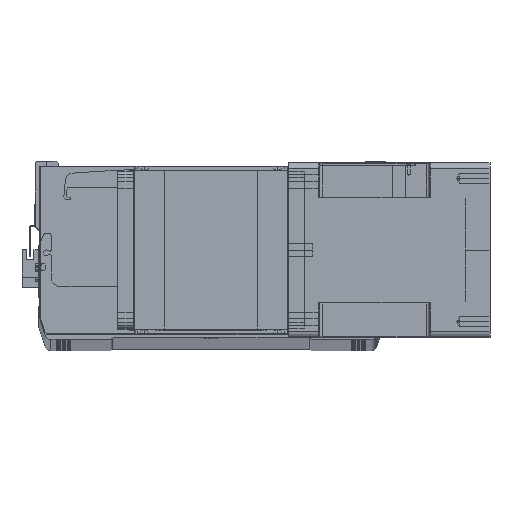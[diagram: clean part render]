
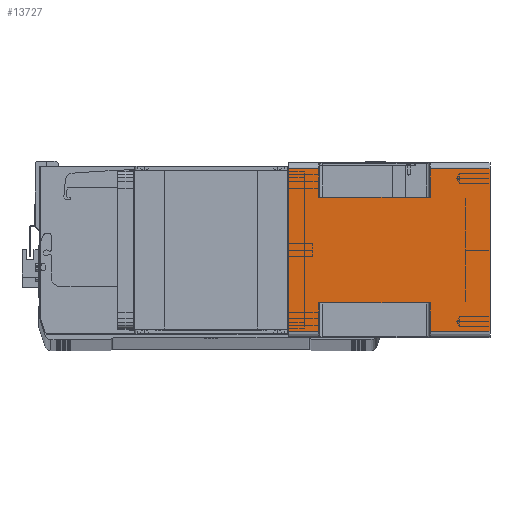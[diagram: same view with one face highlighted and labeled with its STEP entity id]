
A CAD part, top view. The second image highlights one B-rep face of the part: STEP entity #13727.
In plain terms, the highlighted planar face has unit normal (0, 0, 1) as drawn and (1, 0, 0) by its records, which use the part's own axes.
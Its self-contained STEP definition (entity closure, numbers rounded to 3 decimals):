
#133 = DIRECTION ( 'NONE',  ( 0., 1., 0. ) ) ;
#200 = EDGE_CURVE ( 'NONE', #2128, #5513, #19647, .T. ) ;
#1351 = EDGE_CURVE ( 'NONE', #24079, #5513, #34268, .T. ) ;
#1518 = DIRECTION ( 'NONE',  ( 0., 0., -1. ) ) ;
#1710 = ORIENTED_EDGE ( 'NONE', *, *, #32990, .F. ) ;
#2123 = ORIENTED_EDGE ( 'NONE', *, *, #24146, .T. ) ;
#2128 = VERTEX_POINT ( 'NONE', #36059 ) ;
#2222 = DIRECTION ( 'NONE',  ( 0., 0., 1. ) ) ;
#2597 = VECTOR ( 'NONE', #34458, 1000. ) ;
#3301 = ORIENTED_EDGE ( 'NONE', *, *, #20579, .F. ) ;
#3755 = EDGE_CURVE ( 'NONE', #9092, #38415, #39616, .T. ) ;
#3990 = DIRECTION ( 'NONE',  ( 0., 0., 1. ) ) ;
#4006 = VECTOR ( 'NONE', #3990, 1000. ) ;
#5513 = VERTEX_POINT ( 'NONE', #29785 ) ;
#6425 = LINE ( 'NONE', #20924, #14676 ) ;
#6655 = LINE ( 'NONE', #31635, #33603 ) ;
#6863 = CARTESIAN_POINT ( 'NONE',  ( 71., -66., -24.5 ) ) ;
#7181 = FACE_OUTER_BOUND ( 'NONE', #32520, .T. ) ;
#7226 = ORIENTED_EDGE ( 'NONE', *, *, #3755, .T. ) ;
#7442 = LINE ( 'NONE', #17731, #13313 ) ;
#8067 = VECTOR ( 'NONE', #38916, 1000. ) ;
#8434 = CARTESIAN_POINT ( 'NONE',  ( 71., -66., -24.5 ) ) ;
#9092 = VERTEX_POINT ( 'NONE', #6863 ) ;
#9267 = LINE ( 'NONE', #37704, #22967 ) ;
#9811 = AXIS2_PLACEMENT_3D ( 'NONE', #12237, #30786, #11974 ) ;
#9946 = VECTOR ( 'NONE', #35372, 1000. ) ;
#10459 = DIRECTION ( 'NONE',  ( 0., 0., 1. ) ) ;
#11218 = CARTESIAN_POINT ( 'NONE',  ( 71., 66., -24.5 ) ) ;
#11974 = DIRECTION ( 'NONE',  ( 0., 1., 0. ) ) ;
#12067 = DIRECTION ( 'NONE',  ( 0., -1., 0. ) ) ;
#12099 = VERTEX_POINT ( 'NONE', #11218 ) ;
#12237 = CARTESIAN_POINT ( 'NONE',  ( 71., -66., -164. ) ) ;
#12336 = EDGE_CURVE ( 'NONE', #9092, #25297, #38014, .T. ) ;
#12718 = DIRECTION ( 'NONE',  ( 0., 1., 0. ) ) ;
#13313 = VECTOR ( 'NONE', #1518, 1000. ) ;
#13727 = ADVANCED_FACE ( 'NONE', ( #7181 ), #37074, .T. ) ;
#14676 = VECTOR ( 'NONE', #2222, 1000. ) ;
#14768 = LINE ( 'NONE', #34326, #2597 ) ;
#15295 = EDGE_CURVE ( 'NONE', #2128, #19792, #9267, .T. ) ;
#15633 = EDGE_CURVE ( 'NONE', #26828, #12099, #40085, .T. ) ;
#16546 = ORIENTED_EDGE ( 'NONE', *, *, #200, .F. ) ;
#16974 = ORIENTED_EDGE ( 'NONE', *, *, #17180, .F. ) ;
#16988 = CARTESIAN_POINT ( 'NONE',  ( 71., -66., -164. ) ) ;
#17180 = EDGE_CURVE ( 'NONE', #25297, #19396, #27195, .T. ) ;
#17507 = VECTOR ( 'NONE', #17848, 1000. ) ;
#17731 = CARTESIAN_POINT ( 'NONE',  ( 71., 43., -164. ) ) ;
#17848 = DIRECTION ( 'NONE',  ( 0., 1., 0. ) ) ;
#19023 = VECTOR ( 'NONE', #12067, 1000. ) ;
#19396 = VERTEX_POINT ( 'NONE', #29272 ) ;
#19647 = LINE ( 'NONE', #29060, #4006 ) ;
#19792 = VERTEX_POINT ( 'NONE', #27031 ) ;
#20579 = EDGE_CURVE ( 'NONE', #24079, #38415, #6655, .T. ) ;
#20924 = CARTESIAN_POINT ( 'NONE',  ( 71., 66., -164. ) ) ;
#21322 = CARTESIAN_POINT ( 'NONE',  ( 71., -43., -24.5 ) ) ;
#21591 = EDGE_CURVE ( 'NONE', #29699, #27236, #14768, .T. ) ;
#21945 = CARTESIAN_POINT ( 'NONE',  ( 71., -43., -24.5 ) ) ;
#22143 = DIRECTION ( 'NONE',  ( 0., 0., 1. ) ) ;
#22967 = VECTOR ( 'NONE', #12718, 1000. ) ;
#23667 = LINE ( 'NONE', #32084, #9946 ) ;
#24079 = VERTEX_POINT ( 'NONE', #26318 ) ;
#24146 = EDGE_CURVE ( 'NONE', #12099, #19396, #23667, .T. ) ;
#25297 = VERTEX_POINT ( 'NONE', #27277 ) ;
#25523 = ORIENTED_EDGE ( 'NONE', *, *, #12336, .F. ) ;
#26257 = VECTOR ( 'NONE', #10459, 1000. ) ;
#26318 = CARTESIAN_POINT ( 'NONE',  ( 71., -43., -115.5 ) ) ;
#26341 = CARTESIAN_POINT ( 'NONE',  ( 71., -66., 0. ) ) ;
#26828 = VERTEX_POINT ( 'NONE', #30345 ) ;
#27031 = CARTESIAN_POINT ( 'NONE',  ( 71., 66., -164. ) ) ;
#27195 = LINE ( 'NONE', #26341, #8067 ) ;
#27236 = VERTEX_POINT ( 'NONE', #32355 ) ;
#27277 = CARTESIAN_POINT ( 'NONE',  ( 71., -66., 0. ) ) ;
#28885 = VECTOR ( 'NONE', #133, 1000. ) ;
#29060 = CARTESIAN_POINT ( 'NONE',  ( 71., -66., -164. ) ) ;
#29272 = CARTESIAN_POINT ( 'NONE',  ( 71., 66., 0. ) ) ;
#29699 = VERTEX_POINT ( 'NONE', #34226 ) ;
#29785 = CARTESIAN_POINT ( 'NONE',  ( 71., -66., -115.5 ) ) ;
#29869 = EDGE_CURVE ( 'NONE', #19792, #29699, #6425, .T. ) ;
#30345 = CARTESIAN_POINT ( 'NONE',  ( 71., 43., -24.5 ) ) ;
#30392 = ORIENTED_EDGE ( 'NONE', *, *, #15295, .T. ) ;
#30786 = DIRECTION ( 'NONE',  ( 1., 0., 0. ) ) ;
#31285 = CARTESIAN_POINT ( 'NONE',  ( 71., -66., -115.5 ) ) ;
#31635 = CARTESIAN_POINT ( 'NONE',  ( 71., -43., -164. ) ) ;
#32084 = CARTESIAN_POINT ( 'NONE',  ( 71., 66., -164. ) ) ;
#32355 = CARTESIAN_POINT ( 'NONE',  ( 71., 43., -115.5 ) ) ;
#32520 = EDGE_LOOP ( 'NONE', ( #3301, #39664, #16546, #30392, #39620, #38569, #1710, #35848, #2123, #16974, #25523, #7226 ) ) ;
#32990 = EDGE_CURVE ( 'NONE', #26828, #27236, #7442, .T. ) ;
#33603 = VECTOR ( 'NONE', #22143, 1000. ) ;
#34226 = CARTESIAN_POINT ( 'NONE',  ( 71., 66., -115.5 ) ) ;
#34268 = LINE ( 'NONE', #31285, #19023 ) ;
#34326 = CARTESIAN_POINT ( 'NONE',  ( 71., 43., -115.5 ) ) ;
#34458 = DIRECTION ( 'NONE',  ( 0., -1., 0. ) ) ;
#35372 = DIRECTION ( 'NONE',  ( 0., 0., 1. ) ) ;
#35848 = ORIENTED_EDGE ( 'NONE', *, *, #15633, .T. ) ;
#36059 = CARTESIAN_POINT ( 'NONE',  ( 71., -66., -164. ) ) ;
#37074 = PLANE ( 'NONE',  #9811 ) ;
#37704 = CARTESIAN_POINT ( 'NONE',  ( 71., -66., -164. ) ) ;
#38014 = LINE ( 'NONE', #16988, #26257 ) ;
#38415 = VERTEX_POINT ( 'NONE', #21945 ) ;
#38569 = ORIENTED_EDGE ( 'NONE', *, *, #21591, .T. ) ;
#38916 = DIRECTION ( 'NONE',  ( 0., 1., 0. ) ) ;
#39616 = LINE ( 'NONE', #21322, #28885 ) ;
#39620 = ORIENTED_EDGE ( 'NONE', *, *, #29869, .T. ) ;
#39664 = ORIENTED_EDGE ( 'NONE', *, *, #1351, .T. ) ;
#40085 = LINE ( 'NONE', #8434, #17507 ) ;
